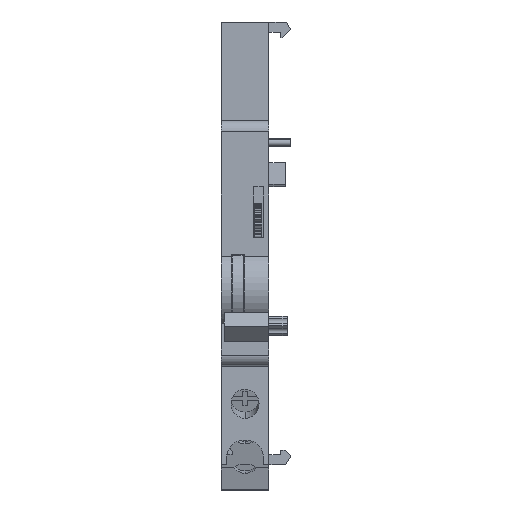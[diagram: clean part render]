
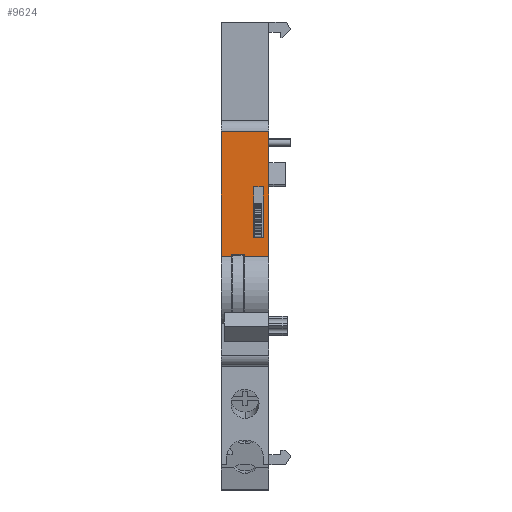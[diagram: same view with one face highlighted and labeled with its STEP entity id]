
A CAD part, top view. The second image highlights one B-rep face of the part: STEP entity #9624.
In plain terms, the highlighted planar face has unit normal (0, 0, 1).
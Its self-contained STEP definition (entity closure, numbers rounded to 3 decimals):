
#245=DIRECTION('',(0.,-1.,0.));
#246=VECTOR('',#245,22.797);
#247=CARTESIAN_POINT('',(0.,65.3,65.5));
#248=LINE('',#247,#246);
#2540=DIRECTION('',(0.,-1.,0.));
#2541=VECTOR('',#2540,22.797);
#2542=CARTESIAN_POINT('',(8.7,65.3,65.5));
#2543=LINE('',#2542,#2541);
#3439=DIRECTION('',(0.,1.,0.));
#3440=VECTOR('',#3439,0.423);
#3441=CARTESIAN_POINT('',(1.9,42.503,65.5));
#3442=LINE('',#3441,#3440);
#3446=DIRECTION('',(1.,0.,0.));
#3447=VECTOR('',#3446,8.7);
#3448=CARTESIAN_POINT('',(0.,65.3,65.5));
#3449=LINE('',#3448,#3447);
#3453=DIRECTION('',(0.,1.,0.));
#3454=VECTOR('',#3453,0.423);
#3455=CARTESIAN_POINT('',(4.2,42.503,65.5));
#3456=LINE('',#3455,#3454);
#3460=DIRECTION('',(1.,0.,0.));
#3461=VECTOR('',#3460,2.3);
#3462=CARTESIAN_POINT('',(1.9,42.927,65.5));
#3463=LINE('',#3462,#3461);
#3467=DIRECTION('',(0.,1.,0.));
#3468=VECTOR('',#3467,9.25);
#3469=CARTESIAN_POINT('',(5.9,45.95,65.5));
#3470=LINE('',#3469,#3468);
#3474=DIRECTION('',(-1.,0.,0.));
#3475=VECTOR('',#3474,1.8);
#3476=CARTESIAN_POINT('',(7.7,45.95,65.5));
#3477=LINE('',#3476,#3475);
#3481=DIRECTION('',(0.,1.,0.));
#3482=VECTOR('',#3481,9.25);
#3483=CARTESIAN_POINT('',(7.7,45.95,65.5));
#3484=LINE('',#3483,#3482);
#3488=DIRECTION('',(-1.,0.,0.));
#3489=VECTOR('',#3488,1.8);
#3490=CARTESIAN_POINT('',(7.7,55.2,65.5));
#3491=LINE('',#3490,#3489);
#3797=DIRECTION('',(1.,0.,0.));
#3798=VECTOR('',#3797,1.9);
#3799=CARTESIAN_POINT('',(0.,42.503,65.5));
#3800=LINE('',#3799,#3798);
#3820=DIRECTION('',(1.,0.,0.));
#3821=VECTOR('',#3820,4.5);
#3822=CARTESIAN_POINT('',(4.2,42.503,65.5));
#3823=LINE('',#3822,#3821);
#6124=CARTESIAN_POINT('',(0.,65.3,65.5));
#6125=VERTEX_POINT('',#6124);
#6126=CARTESIAN_POINT('',(0.,42.503,65.5));
#6127=VERTEX_POINT('',#6126);
#6156=CARTESIAN_POINT('',(8.7,65.3,65.5));
#6157=VERTEX_POINT('',#6156);
#6158=CARTESIAN_POINT('',(8.7,42.503,65.5));
#6159=VERTEX_POINT('',#6158);
#6219=CARTESIAN_POINT('',(1.9,42.503,65.5));
#6220=CARTESIAN_POINT('',(1.9,42.927,65.5));
#6221=VERTEX_POINT('',#6219);
#6222=VERTEX_POINT('',#6220);
#6223=CARTESIAN_POINT('',(4.2,42.503,65.5));
#6224=CARTESIAN_POINT('',(4.2,42.927,65.5));
#6225=VERTEX_POINT('',#6223);
#6226=VERTEX_POINT('',#6224);
#6375=CARTESIAN_POINT('',(5.9,45.95,65.5));
#6376=CARTESIAN_POINT('',(5.9,55.2,65.5));
#6377=VERTEX_POINT('',#6375);
#6378=VERTEX_POINT('',#6376);
#6379=CARTESIAN_POINT('',(7.7,45.95,65.5));
#6380=VERTEX_POINT('',#6379);
#6381=CARTESIAN_POINT('',(7.7,55.2,65.5));
#6382=VERTEX_POINT('',#6381);
#9594=CARTESIAN_POINT('',(0.,65.3,65.5));
#9595=DIRECTION('',(0.,0.,1.));
#9596=DIRECTION('',(0.,-1.,0.));
#9597=AXIS2_PLACEMENT_3D('',#9594,#9595,#9596);
#9598=PLANE('',#9597);
#9600=ORIENTED_EDGE('',*,*,#9599,.F.);
#9602=ORIENTED_EDGE('',*,*,#9601,.F.);
#9603=ORIENTED_EDGE('',*,*,#6668,.F.);
#9604=ORIENTED_EDGE('',*,*,#9589,.T.);
#9605=ORIENTED_EDGE('',*,*,#8785,.T.);
#9607=ORIENTED_EDGE('',*,*,#9606,.F.);
#9609=ORIENTED_EDGE('',*,*,#9608,.T.);
#9611=ORIENTED_EDGE('',*,*,#9610,.F.);
#9612=EDGE_LOOP('',(#9600,#9602,#9603,#9604,#9605,#9607,#9609,#9611));
#9613=FACE_OUTER_BOUND('',#9612,.F.);
#9615=ORIENTED_EDGE('',*,*,#9614,.F.);
#9617=ORIENTED_EDGE('',*,*,#9616,.F.);
#9619=ORIENTED_EDGE('',*,*,#9618,.T.);
#9621=ORIENTED_EDGE('',*,*,#9620,.T.);
#9622=EDGE_LOOP('',(#9615,#9617,#9619,#9621));
#9623=FACE_BOUND('',#9622,.F.);
#6668=EDGE_CURVE('',#6125,#6127,#248,.T.);
#8785=EDGE_CURVE('',#6157,#6159,#2543,.T.);
#9589=EDGE_CURVE('',#6125,#6157,#3449,.T.);
#9599=EDGE_CURVE('',#6221,#6222,#3442,.T.);
#9601=EDGE_CURVE('',#6127,#6221,#3800,.T.);
#9606=EDGE_CURVE('',#6225,#6159,#3823,.T.);
#9608=EDGE_CURVE('',#6225,#6226,#3456,.T.);
#9610=EDGE_CURVE('',#6222,#6226,#3463,.T.);
#9614=EDGE_CURVE('',#6377,#6378,#3470,.T.);
#9616=EDGE_CURVE('',#6380,#6377,#3477,.T.);
#9618=EDGE_CURVE('',#6380,#6382,#3484,.T.);
#9620=EDGE_CURVE('',#6382,#6378,#3491,.T.);
#9624=ADVANCED_FACE('',(#9613,#9623),#9598,.T.);
